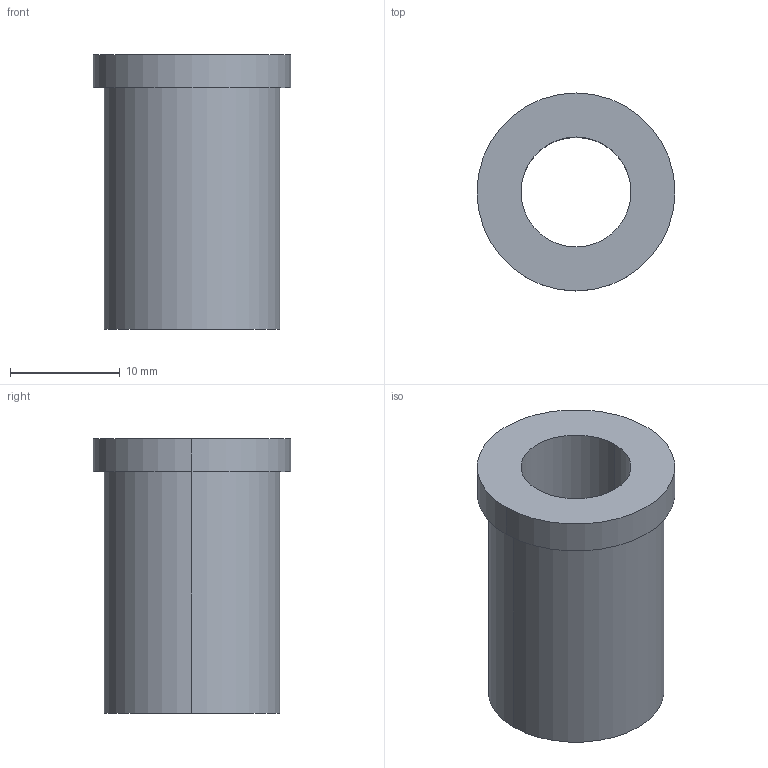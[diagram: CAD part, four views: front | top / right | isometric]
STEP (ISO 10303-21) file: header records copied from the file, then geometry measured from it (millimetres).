
FILE_DESCRIPTION(/* description */ (''),/* implementation_level */ '2;1');
FILE_NAME(/* name */ '3d_tgbf10-25_00358_r00.stp',/* time_stamp */ '2011-01-10T14:09:04+09:00',/* author */ ('MISUMI'),/* organization */ (''),/* preprocessor_version */ 'ST-DEVELOPER v11',/* originating_system */ 'UGS - NX 5.0',/* authorisation */ '');
FILE_SCHEMA (('CONFIG_CONTROL_DESIGN'));
Length unit declared in the file: millimetre
Products named in the file (1): 3d_tgbf10-25_00358_r00
Bounding box: 18 x 18 x 25 mm (x, y, z)
Volume: 3223.3 mm3; surface area: 2412.7 mm2
Topology: 1 solids, 1 shells, 9 faces, 18 edges, 12 vertices
Faces by surface type: cylinder 6, plane 3
Entity records: 334 total; most frequent: DIRECTION 50, CARTESIAN_POINT 40, ORIENTED_EDGE 36, AXIS2_PLACEMENT_3D 22, EDGE_CURVE 18, EDGE_LOOP 12, CIRCLE 12, VERTEX_POINT 12
